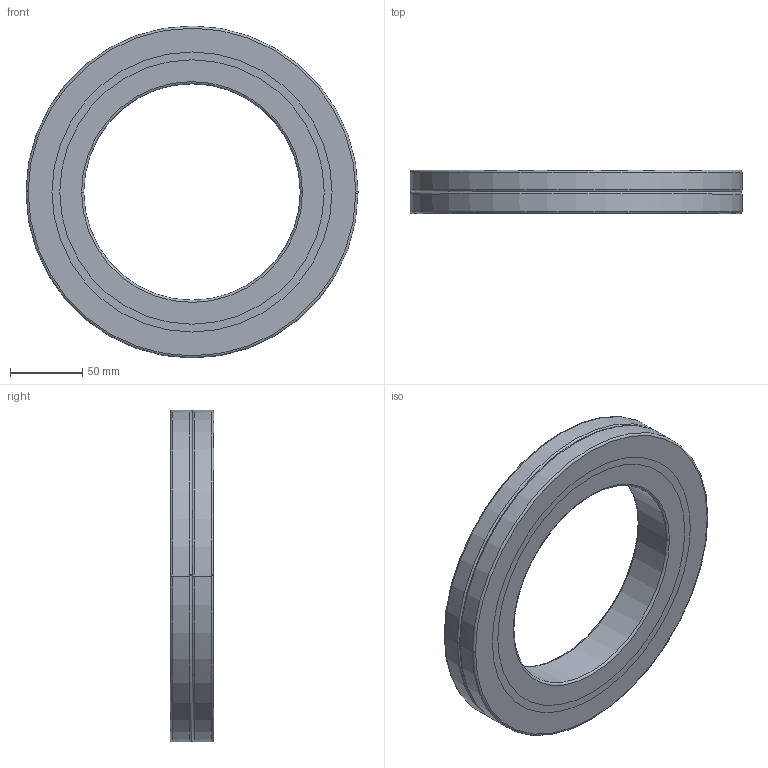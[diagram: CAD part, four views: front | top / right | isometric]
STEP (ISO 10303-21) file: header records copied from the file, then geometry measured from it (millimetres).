
FILE_DESCRIPTION(('no description'),'unknown implementation level');
FILE_NAME('CRBA15030_34.stp',' ',('HIWIN GmbH'),('CADClick - KiM GmbH - www.kimweb.de'),'unknown preprocess','ACIS','unknown authorization');
FILE_SCHEMA(('automotive_design'));
Length unit declared in the file: millimetre
Products named in the file (5): CRBA15030_1; CRBA15030_2; CRBA15030_3; CRBA15030_4; CRBA15030
Bounding box: 230 x 30 x 230 mm (x, y, z)
Volume: 631246.9 mm3; surface area: 151762.8 mm2
Topology: 5 solids, 5 shells, 54 faces, 120 edges, 76 vertices
Faces by surface type: torus 24, cylinder 20, plane 10
Entity records: 3096 total; most frequent: DIRECTION 338, STYLED_ITEM 255, PRESENTATION_STYLE_ASSIGNMENT 255, CARTESIAN_POINT 255, COLOUR_RGB 255, ORIENTED_EDGE 240, AXIS2_PLACEMENT_3D 159, EDGE_CURVE 120
